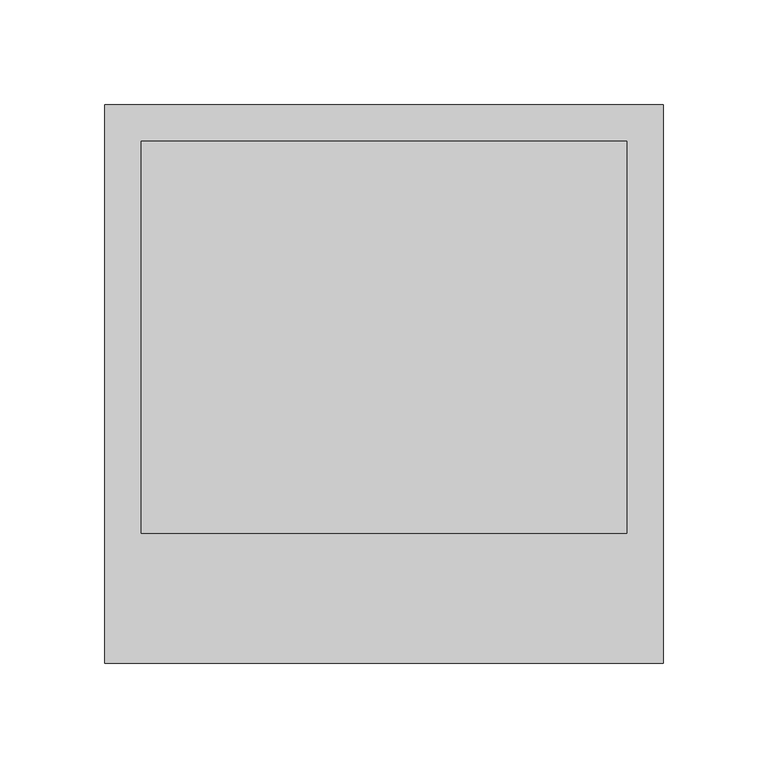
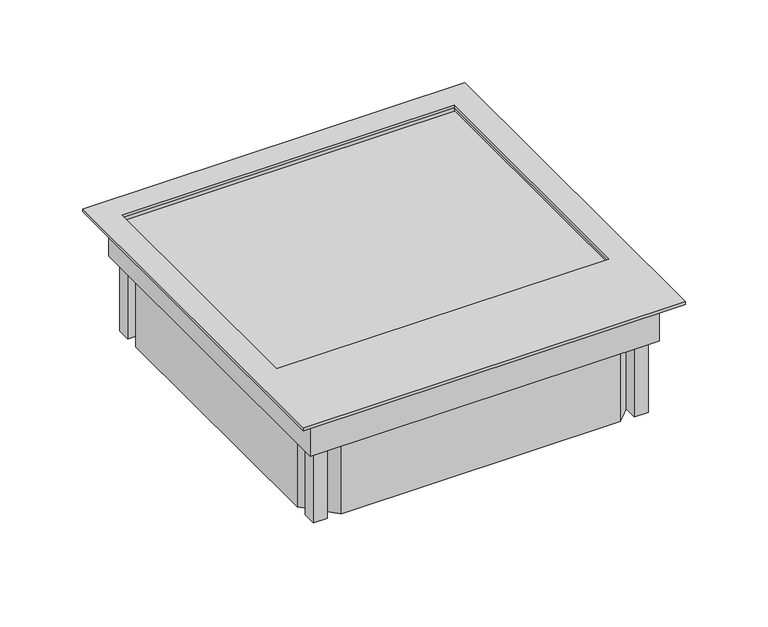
"""IFC4 building model written with IfcOpenShell, lengths in millimetres: proxy geometry, Electrical_Installation_Hager_VE-EE_Service-unit-VQ12-made-of-stainless-steel : Electrical_Installation_Hager_VE-EE_Service-unit-VQ12-made-of-stainless-steel."""

from ifc_helpers import new_model, si_unit, frame, origin, place, context, project, spatial, polyline, outline, extrude, faceted_brep, source, transform, mapped, element, save


def electrical_fixtures_8427cab8(model_context):
    return source(origin(), model_context, "Body", "SolidModel", [
        faceted_brep([(122.0, 122.0, -30.0), (122.0, -122.0, -30.0), (-122.0, -122.0, -30.0), (-122.0, 122.0, -30.0), (117.0, -107.25, -30.0), (117.0, 107.25, -30.0), (117.0, 117.0, -30.0), (107.25, 117.0, -30.0), (-107.25, 117.0, -30.0), (-117.0, 117.0, -30.0), (-117.0, 107.25, -30.0), (-117.0, -107.25, -30.0), (-117.0, -117.0, -30.0), (-107.25, -117.0, -30.0), (107.25, -117.0, -30.0), (117.0, -117.0, -30.0), (-122.0, 122.0, 0.0), (122.0, 122.0, 0.0), (-122.0, -122.0, 0.0), (122.0, -122.0, 0.0), (117.0, 117.0, 0.0), (117.0, 117.0, -30.0), (117.0, -117.0, -30.0), (117.0, -117.0, -3.0), (117.0, -71.3, -3.0), (117.0, -71.3, 0.0), (-117.0, 117.0, -30.0), (-117.0, 117.0, 0.0), (-117.0, -71.3, 0.0), (-117.0, -71.3, -3.0), (-117.0, -117.0, -3.0), (-117.0, -117.0, -30.0), (133.5, 133.5, 2.0), (-133.5, 133.5, 2.0), (-133.5, -133.5, 2.0), (133.5, -133.5, 2.0), (116.0, 116.0, 2.0), (116.0, -71.3, 2.0), (-116.0, -71.3, 2.0), (-116.0, 116.0, 2.0), (116.0, 116.0, 0.0), (-116.0, 116.0, 0.0), (-116.0, -71.3, 0.0), (116.0, -71.3, 0.0), (133.5, 133.5, 0.0), (133.5, -133.5, 0.0), (-133.5, -133.5, 0.0), (-133.5, 133.5, 0.0), (-107.25, 107.25, -30.0), (107.25, 107.25, -30.0), (-107.25, -107.25, -30.0), (107.25, -107.25, -30.0), (-107.25, 117.0, -84.0), (-107.25, 107.25, -84.0), (-117.0, 107.25, -84.0), (-117.0, 117.0, -84.0), (117.0, 117.0, -84.0), (117.0, 107.25, -84.0), (107.25, 107.25, -84.0), (107.25, 117.0, -84.0), (-107.25, -117.0, -84.0), (-117.0, -117.0, -84.0), (-117.0, -107.25, -84.0), (-107.25, -107.25, -84.0), (117.0, -117.0, -84.0), (107.25, -117.0, -84.0), (107.25, -107.25, -84.0), (117.0, -107.25, -84.0)], [[[0, 1, 2, 3], [4, 5, 6, 7, 8, 9, 10, 11, 12, 13, 14, 15]], [[0, 3, 16, 17]], [[3, 2, 18, 16]], [[2, 1, 19, 18]], [[1, 0, 17, 19]], [[20, 21, 5, 4, 22, 23, 24, 25]], [[26, 27, 28, 29, 30, 31, 11, 10]], [[21, 20, 27, 26, 8, 7]], [[24, 23, 30, 29]], [[30, 23, 22, 14, 13, 31]], [[32, 33, 34, 35], [36, 37, 38, 39]], [[40, 41, 42, 28, 27, 20, 25, 43]], [[44, 45, 46, 47], [17, 16, 18, 19]], [[36, 39, 41, 40]], [[39, 38, 42, 41]], [[38, 37, 43, 25, 24, 29, 28, 42]], [[37, 36, 40, 43]], [[33, 32, 44, 47]], [[34, 33, 47, 46]], [[35, 34, 46, 45]], [[32, 35, 45, 44]], [[10, 48, 8, 26]], [[7, 49, 5, 21]], [[13, 50, 11, 31]], [[4, 51, 14, 22]], [[52, 53, 54, 55]], [[56, 57, 58, 59]], [[60, 61, 62, 63]], [[64, 65, 66, 67]], [[52, 55, 9, 8]], [[55, 54, 10, 9]], [[48, 10, 54, 53]], [[8, 48, 53, 52]], [[56, 59, 7, 6]], [[49, 7, 59, 58]], [[5, 49, 58, 57]], [[57, 56, 6, 5]], [[50, 13, 60, 63]], [[11, 50, 63, 62]], [[62, 61, 12, 11]], [[61, 60, 13, 12]], [[64, 67, 4, 15]], [[51, 4, 67, 66]], [[14, 51, 66, 65]], [[65, 64, 15, 14]]]),
        extrude(outline(polyline([(-117.0, -97.5), (-117.0, 97.5), (-97.5, 117.0), (97.5, 117.0), (117.0, 97.5), (117.0, -97.5), (97.5, -117.0), (-97.5, -117.0), (-117.0, -97.5)]), holes=[polyline([(-112.0, -95.4289322), (-95.4289322, -112.0), (95.4289322, -112.0), (112.0, -95.4289322), (112.0, 95.4289322), (95.4289322, 112.0), (-95.4289322, 112.0), (-112.0, 95.4289322), (-112.0, -95.4289322)])]), frame((0.0, 0.0, -84.0), z_axis=(0.0, 0.0, 1.0), x_axis=(1.0, 0.0, 0.0)), (0.0, 0.0, 1.0), 54.0),
        extrude(outline(polyline([(-117.0, -117.0), (-117.0, 117.0), (117.0, 117.0), (117.0, -117.0), (-117.0, -117.0)])), frame((0.0, 0.0, -8.0), z_axis=(0.0, 0.0, 1.0), x_axis=(1.0, 0.0, 0.0)), (0.0, 0.0, 1.0), 5.0),
    ])


if __name__ == "__main__":
    model = new_model("IFC4")
    model_context = context("Model", 3, world=origin())
    ifc_project = project(units=[si_unit("LENGTHUNIT", "METRE", prefix="MILLI")], contexts=[model_context])
    site = spatial("IfcSite", under=ifc_project)
    building = spatial("IfcBuilding", under=site)
    placement = place(None, origin())
    electrical_fixtures_shape = electrical_fixtures_8427cab8(model_context)
    element("IfcBuildingElementProxy", 1, Name="Electrical_Installation_Hager_VE-EE_Service-unit-VQ12-made-of-stainless-steel : Electrical_Installation_Hager_VE-EE_Service-unit-VQ12-made-of-stainless-steel", ObjectType="Electrical_Installation_Hager_VE-EE_Service-unit-VQ12-made-of-stainless-steel : Electrical_Installation_Hager_VE-EE_Service-unit-VQ12-made-of-stainless-steel", at=placement, inside=building, context=model_context, shape_type="MappedRepresentation", body=[
        mapped(electrical_fixtures_shape, transform((0.0, 0.0, 0.0), x_axis=(1.0, 0.0, 0.0), y_axis=(0.0, 1.0, 0.0), z_axis=(0.0, 0.0, 1.0))),
    ])
    save(model, "model.ifc")
